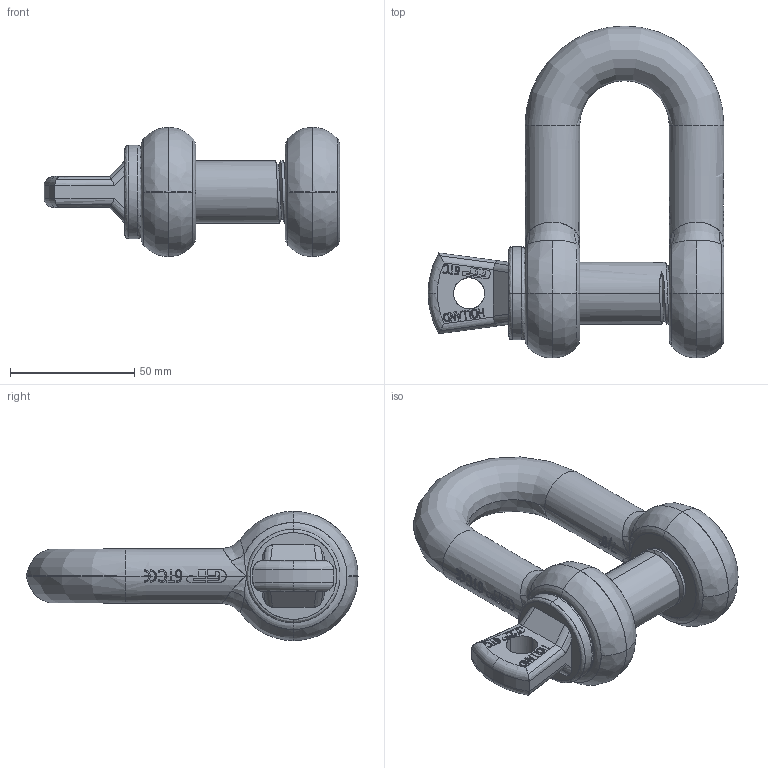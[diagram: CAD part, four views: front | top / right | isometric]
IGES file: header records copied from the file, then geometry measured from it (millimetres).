
Start section: START RECORD GO HERE.
Global section: file name: 6,5.igs; native system: Solidworks 2009      A Version 5 Release 17 ; preprocessor: Solidworks                 ; author: v.b.; organization: P4; date: 20090807.081812; units: millimetre
Bounding box: 119 x 133.5 x 52 mm (x, y, z)
Surface area: 39583.3 mm2 (no closed solid volume)
Topology: 0 solids, 0 shells, 637 faces, 4256 edges, 4248 vertices
Faces by surface type: bspline 277, plane 223, revolution 137
